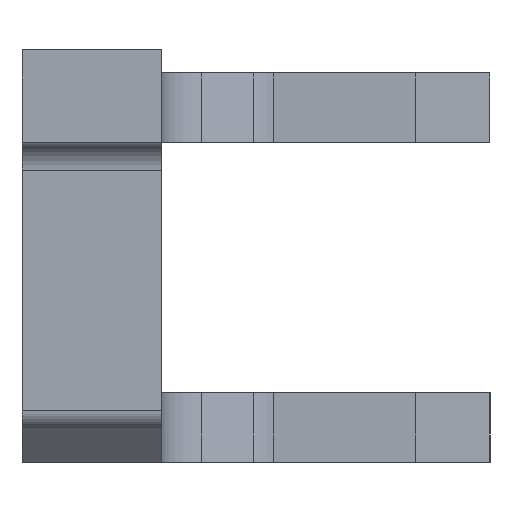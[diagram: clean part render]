
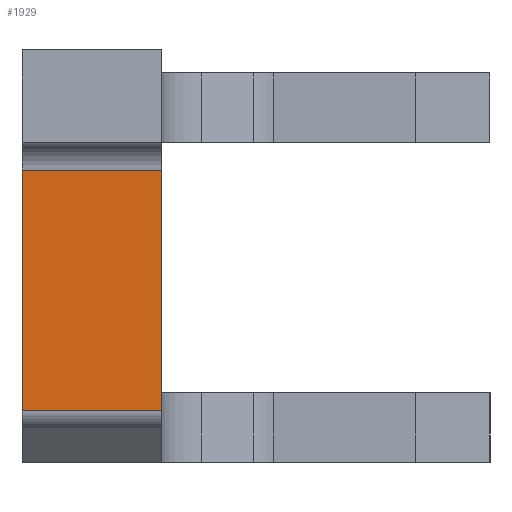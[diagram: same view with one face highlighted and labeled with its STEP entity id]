
A CAD part, left-side view. The second image highlights one B-rep face of the part: STEP entity #1929.
In plain terms, the highlighted free-form (B-spline) face has degree [1, 1] with [2, 2] control points.
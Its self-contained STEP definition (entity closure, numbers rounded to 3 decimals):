
#912=CARTESIAN_POINT('',(-76.338,53.375,-18.));
#913=VERTEX_POINT('',#912);
#921=CARTESIAN_POINT('',(-76.338,53.375,-69.856));
#922=VERTEX_POINT('',#921);
#923=CARTESIAN_POINT('',(-76.338,53.375,-69.856));
#924=DIRECTION('',(0.0,0.0,1.0));
#925=VECTOR('',#924,51.856);
#926=LINE('',#923,#925);
#927=EDGE_CURVE('',#922,#913,#926,.T.);
#1687=CARTESIAN_POINT('',(-76.338,83.375,-69.856));
#1688=VERTEX_POINT('',#1687);
#1696=CARTESIAN_POINT('',(-76.338,83.375,-18.));
#1697=VERTEX_POINT('',#1696);
#1698=CARTESIAN_POINT('',(-76.338,83.375,-18.));
#1699=DIRECTION('',(0.0,0.0,-1.0));
#1700=VECTOR('',#1699,51.856);
#1701=LINE('',#1698,#1700);
#1702=EDGE_CURVE('',#1697,#1688,#1701,.T.);
#1902=CARTESIAN_POINT('',(-76.338,83.375,-69.856));
#1903=DIRECTION('',(0.0,-1.0,0.0));
#1904=VECTOR('',#1903,30.);
#1905=LINE('',#1902,#1904);
#1906=EDGE_CURVE('',#1688,#922,#1905,.T.);
#1913=CARTESIAN_POINT('',(-76.338,83.375,-69.856));
#1914=CARTESIAN_POINT('',(-76.338,83.375,-18.));
#1915=CARTESIAN_POINT('',(-76.338,53.375,-69.856));
#1916=CARTESIAN_POINT('',(-76.338,53.375,-18.));
#1917=B_SPLINE_SURFACE_WITH_KNOTS('',1,1,((#1913,#1915),(#1914,#1916)),.UNSPECIFIED.,.F.,.F.,.U.,(2,2),(2,2),(0.0,51.856),(0.0,30.0),.UNSPECIFIED.);
#1918=ORIENTED_EDGE('',*,*,#927,.T.);
#1919=CARTESIAN_POINT('',(-76.338,83.375,-18.));
#1920=DIRECTION('',(0.0,-1.0,0.0));
#1921=VECTOR('',#1920,30.);
#1922=LINE('',#1919,#1921);
#1923=EDGE_CURVE('',#1697,#913,#1922,.T.);
#1924=ORIENTED_EDGE('',*,*,#1923,.F.);
#1925=ORIENTED_EDGE('',*,*,#1702,.T.);
#1926=ORIENTED_EDGE('',*,*,#1906,.T.);
#1927=EDGE_LOOP('',(#1918,#1924,#1925,#1926));
#1928=FACE_OUTER_BOUND('',#1927,.T.);
#1929=ADVANCED_FACE('',(#1928),#1917,.F.);
